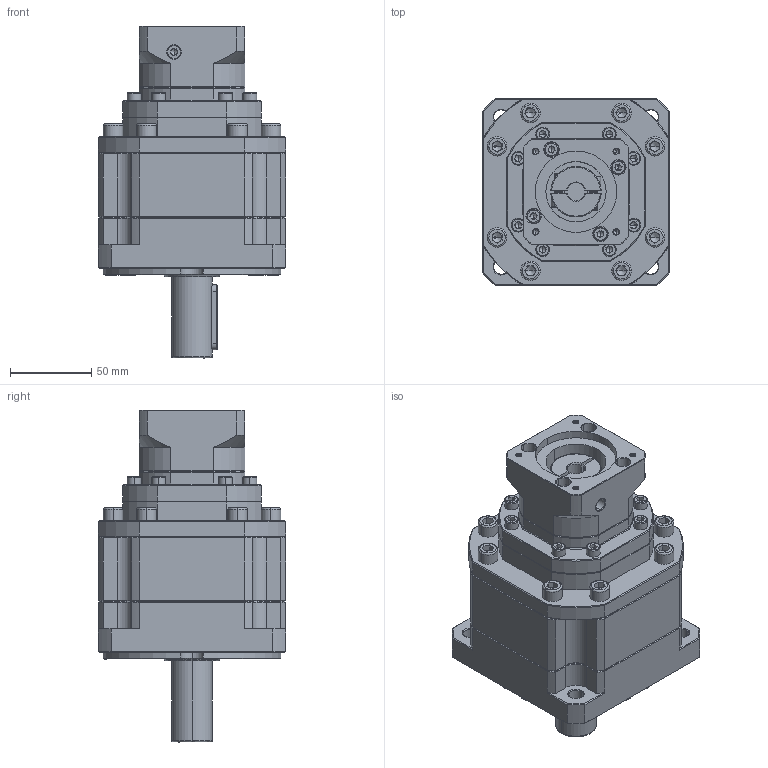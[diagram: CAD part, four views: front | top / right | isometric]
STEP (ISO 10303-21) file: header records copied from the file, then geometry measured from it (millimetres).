
FILE_DESCRIPTION (( 'STEP AP214' ), '1' );
FILE_NAME ('ZB115A-D25-L3-P2-11-50-70-M4.step', '2023-08-26T10:30:22', ( '' ), ( '' ), 'SwSTEP 2.0', 'SolidWorks 2016', '' );
FILE_SCHEMA (( 'AUTOMOTIVE_DESIGN' ));
Length unit declared in the file: millimetre
Products named in the file (1): ZB115A-D25-L3-P2-11-50-70-M4
Bounding box: 115 x 115 x 204 mm (x, y, z)
Volume: 1294923.7 mm3; surface area: 122071.7 mm2
Topology: 7 solids, 7 shells, 2547 faces, 6711 edges, 4278 vertices
Faces by surface type: plane 1306, bspline 443, cylinder 434, cone 342, torus 22
Entity records: 130036 total; most frequent: CARTESIAN_POINT 42628, ORIENTED_EDGE 13298, DIRECTION 10729, EDGE_CURVE 6649, VERTEX_POINT 4278, LINE 4255, VECTOR 4255, AXIS2_PLACEMENT_3D 3237
